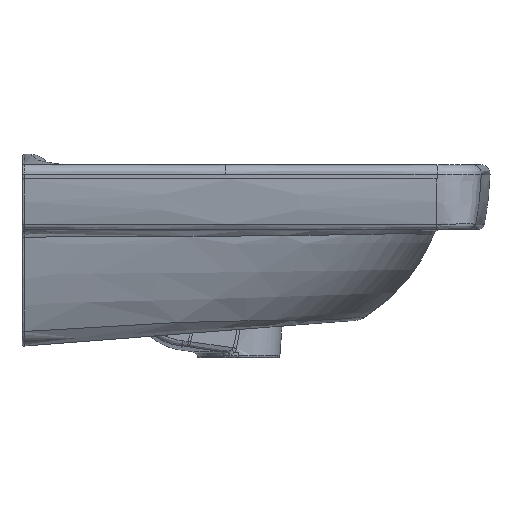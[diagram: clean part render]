
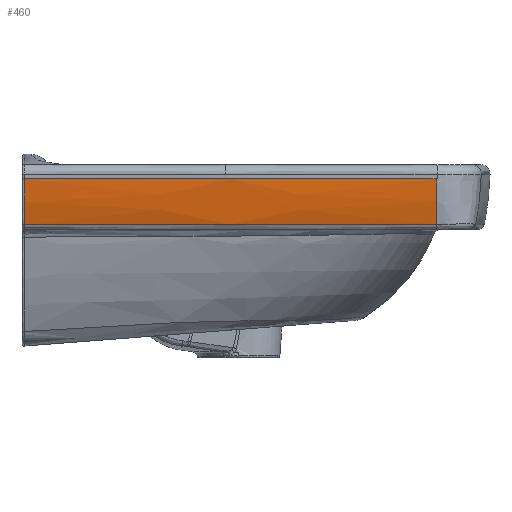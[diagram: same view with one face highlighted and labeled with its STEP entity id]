
A CAD part, left-side view. The second image highlights one B-rep face of the part: STEP entity #460.
In plain terms, the highlighted free-form (B-spline) face has degree [3, 3] with [4, 4] control points.
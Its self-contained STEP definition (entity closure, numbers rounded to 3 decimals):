
#460=ADVANCED_FACE('',(#787),#664,.F.);
#664=B_SPLINE_SURFACE_WITH_KNOTS('',3,3,((#38451,#38452,#38453,#38454),
(#38455,#38456,#38457,#38458),(#38459,#38460,#38461,#38462),(#38463,#38464,
#38465,#38466)),.UNSPECIFIED.,.F.,.F.,.F.,(4,4),(4,4),(0.,1.),(0.,1.),
 .UNSPECIFIED.);
#787=FACE_OUTER_BOUND('',#1053,.T.);
#1053=EDGE_LOOP('',(#2210,#2211,#2212,#2213));
#1433=B_SPLINE_CURVE_WITH_KNOTS('',3,(#36662,#36663,#36664,#36665,#36666,
#36667,#36668,#36669,#36670,#36671,#36672,#36673,#36674,#36675,#36676,#36677,
#36678,#36679,#36680,#36681,#36682,#36683,#36684,#36685,#36686,#36687,#36688,
#36689,#36690,#36691,#36692,#36693,#36694,#36695,#36696),.UNSPECIFIED.,
 .F.,.F.,(4,2,2,2,2,2,2,2,2,1,2,2,2,2,2,2,2,4),(0.,0.25,0.375,
0.437,0.5,0.625,0.687,
0.719,0.727,0.734,0.75,
0.812,0.844,0.859,0.875,
0.906,0.937,1.),.UNSPECIFIED.);
#1445=B_SPLINE_CURVE_WITH_KNOTS('',3,(#37364,#37365,#37366,#37367),
 .UNSPECIFIED.,.F.,.F.,(4,4),(0.,1.),.UNSPECIFIED.);
#1446=B_SPLINE_CURVE_WITH_KNOTS('',3,(#37396,#37397,#37398,#37399),
 .UNSPECIFIED.,.F.,.F.,(4,4),(0.,1.),.UNSPECIFIED.);
#1461=B_SPLINE_CURVE_WITH_KNOTS('',3,(#38447,#38448,#38449,#38450),
 .UNSPECIFIED.,.F.,.F.,(4,4),(0.,1.),.UNSPECIFIED.);
#2210=ORIENTED_EDGE('',*,*,#3744,.T.);
#2211=ORIENTED_EDGE('',*,*,#3777,.T.);
#2212=ORIENTED_EDGE('',*,*,#3727,.T.);
#2213=ORIENTED_EDGE('',*,*,#3739,.T.);
#3254=VERTEX_POINT('',#36697);
#3255=VERTEX_POINT('',#36698);
#3264=VERTEX_POINT('',#37363);
#3267=VERTEX_POINT('',#37395);
#3727=EDGE_CURVE('',#3254,#3255,#1433,.T.);
#3739=EDGE_CURVE('',#3255,#3264,#1445,.T.);
#3744=EDGE_CURVE('',#3264,#3267,#1446,.T.);
#3777=EDGE_CURVE('',#3267,#3254,#1461,.T.);
#36662=CARTESIAN_POINT('',(-243.326,-354.097,-51.145));
#36663=CARTESIAN_POINT('',(-244.149,-354.173,-47.969));
#36664=CARTESIAN_POINT('',(-244.857,-354.242,-44.753));
#36665=CARTESIAN_POINT('',(-245.772,-354.336,-39.879));
#36666=CARTESIAN_POINT('',(-246.053,-354.365,-38.245));
#36667=CARTESIAN_POINT('',(-246.441,-354.407,-35.784));
#36668=CARTESIAN_POINT('',(-246.565,-354.421,-34.961));
#36669=CARTESIAN_POINT('',(-246.801,-354.447,-33.312));
#36670=CARTESIAN_POINT('',(-246.966,-354.466,-32.103));
#36671=CARTESIAN_POINT('',(-247.354,-354.513,-29.062));
#36672=CARTESIAN_POINT('',(-247.548,-354.541,-27.304));
#36673=CARTESIAN_POINT('',(-247.776,-354.576,-25.087));
#36674=CARTESIAN_POINT('',(-247.841,-354.587,-24.417));
#36675=CARTESIAN_POINT('',(-247.925,-354.603,-23.519));
#36676=CARTESIAN_POINT('',(-247.951,-354.607,-23.238));
#36677=CARTESIAN_POINT('',(-247.981,-354.613,-22.908));
#36678=CARTESIAN_POINT('',(-247.981,-354.613,-22.907));
#36679=CARTESIAN_POINT('',(-248.014,-354.62,-22.534));
#36680=CARTESIAN_POINT('',(-248.062,-354.629,-21.988));
#36681=CARTESIAN_POINT('',(-248.105,-354.638,-21.486));
#36682=CARTESIAN_POINT('',(-248.236,-354.665,-19.909));
#36683=CARTESIAN_POINT('',(-248.307,-354.682,-18.956));
#36684=CARTESIAN_POINT('',(-248.377,-354.698,-17.998));
#36685=CARTESIAN_POINT('',(-248.394,-354.702,-17.758));
#36686=CARTESIAN_POINT('',(-248.411,-354.705,-17.514));
#36687=CARTESIAN_POINT('',(-248.415,-354.706,-17.453));
#36688=CARTESIAN_POINT('',(-248.421,-354.707,-17.37));
#36689=CARTESIAN_POINT('',(-248.441,-354.711,-17.077));
#36690=CARTESIAN_POINT('',(-248.486,-354.718,-16.417));
#36691=CARTESIAN_POINT('',(-248.513,-354.721,-15.997));
#36692=CARTESIAN_POINT('',(-248.564,-354.723,-15.197));
#36693=CARTESIAN_POINT('',(-248.586,-354.723,-14.842));
#36694=CARTESIAN_POINT('',(-248.66,-354.718,-13.607));
#36695=CARTESIAN_POINT('',(-248.709,-354.701,-12.735));
#36696=CARTESIAN_POINT('',(-248.749,-354.733,-11.958));
#36697=CARTESIAN_POINT('',(-243.326,-354.096,-51.145));
#36698=CARTESIAN_POINT('',(-248.749,-354.733,-11.958));
#37363=CARTESIAN_POINT('',(-245.504,-1.735,-11.958));
#37364=CARTESIAN_POINT('',(-247.978,-391.75,-11.958));
#37365=CARTESIAN_POINT('',(-251.072,-261.189,-11.958));
#37366=CARTESIAN_POINT('',(-250.227,-130.555,-11.958));
#37367=CARTESIAN_POINT('',(-245.441,0.,-11.958));
#37395=CARTESIAN_POINT('',(-240.067,-1.737,-51.145));
#37396=CARTESIAN_POINT('',(-245.504,-1.735,-11.958));
#37397=CARTESIAN_POINT('',(-244.813,-1.735,-25.153));
#37398=CARTESIAN_POINT('',(-243.388,-1.735,-38.349));
#37399=CARTESIAN_POINT('',(-240.067,-1.737,-51.145));
#38447=CARTESIAN_POINT('',(-240.067,-1.737,-51.145));
#38448=CARTESIAN_POINT('',(-244.339,-119.137,-51.146));
#38449=CARTESIAN_POINT('',(-245.43,-236.637,-51.145));
#38450=CARTESIAN_POINT('',(-243.326,-354.097,-51.145));
#38451=CARTESIAN_POINT('',(-238.939,0.,-55.));
#38452=CARTESIAN_POINT('',(-243.73,-130.695,-55.));
#38453=CARTESIAN_POINT('',(-244.574,-261.133,-55.));
#38454=CARTESIAN_POINT('',(-241.482,-391.596,-55.));
#38455=CARTESIAN_POINT('',(-242.908,0.003,-41.452));
#38456=CARTESIAN_POINT('',(-247.696,-130.61,-41.452));
#38457=CARTESIAN_POINT('',(-248.541,-261.168,-41.452));
#38458=CARTESIAN_POINT('',(-245.447,-391.69,-41.452));
#38459=CARTESIAN_POINT('',(-244.654,0.002,-26.979));
#38460=CARTESIAN_POINT('',(-249.44,-130.572,-26.979));
#38461=CARTESIAN_POINT('',(-250.285,-261.183,-26.979));
#38462=CARTESIAN_POINT('',(-247.191,-391.731,-26.979));
#38463=CARTESIAN_POINT('',(-245.441,0.,-11.958));
#38464=CARTESIAN_POINT('',(-250.227,-130.555,-11.958));
#38465=CARTESIAN_POINT('',(-251.072,-261.189,-11.958));
#38466=CARTESIAN_POINT('',(-247.978,-391.75,-11.958));
